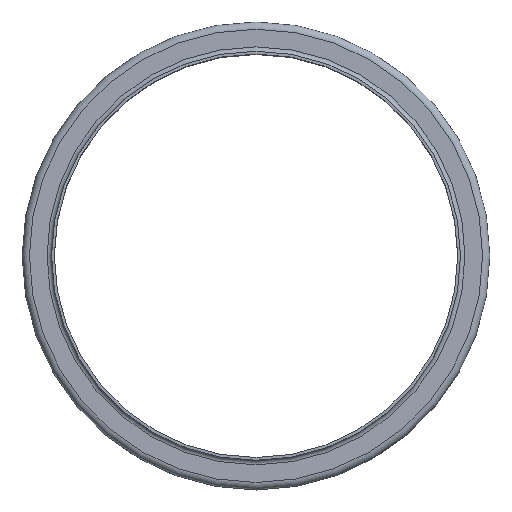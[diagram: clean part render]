
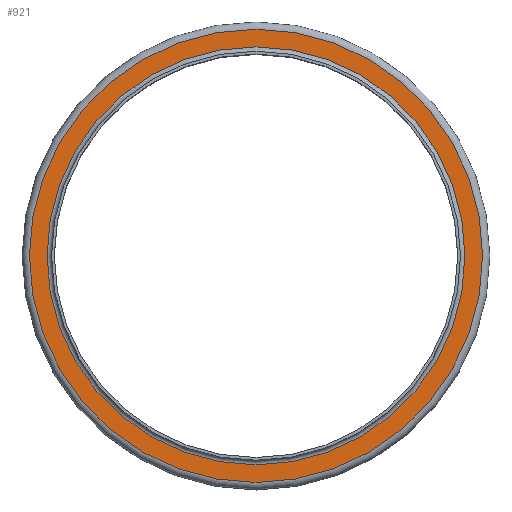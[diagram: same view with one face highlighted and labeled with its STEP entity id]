
A CAD part, top view. The second image highlights one B-rep face of the part: STEP entity #921.
In plain terms, the highlighted planar face has unit normal (0, 0, 1).
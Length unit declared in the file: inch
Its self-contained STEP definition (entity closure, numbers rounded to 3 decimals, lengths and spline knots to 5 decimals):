
#98=FACE_BOUND('',#272,.T.);
#165=FACE_OUTER_BOUND('',#271,.T.);
#271=EDGE_LOOP('',(#772));
#272=EDGE_LOOP('',(#773));
#385=CIRCLE('',#1110,4.4675);
#386=CIRCLE('',#1112,4.845);
#466=VERTEX_POINT('',#1734);
#467=VERTEX_POINT('',#1738);
#571=EDGE_CURVE('',#466,#466,#385,.T.);
#572=EDGE_CURVE('',#467,#467,#386,.T.);
#772=ORIENTED_EDGE('',*,*,#572,.F.);
#773=ORIENTED_EDGE('',*,*,#571,.T.);
#854=PLANE('',#1111);
#921=ADVANCED_FACE('',(#165,#98),#854,.T.);
#1110=AXIS2_PLACEMENT_3D('',#1736,#1446,#1447);
#1111=AXIS2_PLACEMENT_3D('',#1737,#1448,#1449);
#1112=AXIS2_PLACEMENT_3D('',#1739,#1450,#1451);
#1446=DIRECTION('center_axis',(0.,0.,-1.));
#1447=DIRECTION('ref_axis',(1.,0.,0.));
#1448=DIRECTION('center_axis',(0.,0.,1.));
#1449=DIRECTION('ref_axis',(1.,0.,0.));
#1450=DIRECTION('center_axis',(0.,0.,-1.));
#1451=DIRECTION('ref_axis',(1.,0.,0.));
#1734=CARTESIAN_POINT('',(4.4675,0.,-0.095));
#1736=CARTESIAN_POINT('Origin',(0.,0.,-0.095));
#1737=CARTESIAN_POINT('Origin',(0.,4.845,-0.095));
#1738=CARTESIAN_POINT('',(4.845,0.,-0.095));
#1739=CARTESIAN_POINT('Origin',(0.,0.,-0.095));
